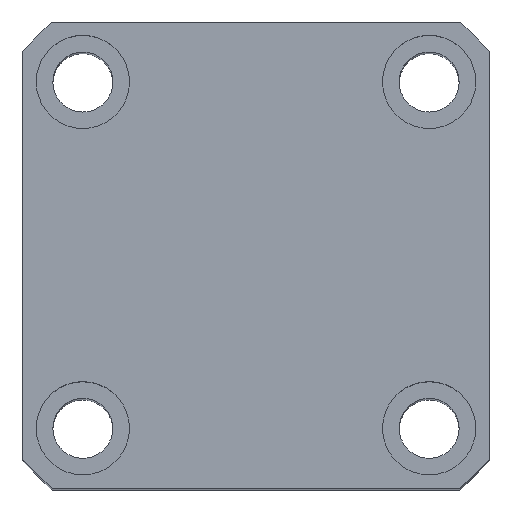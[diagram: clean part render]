
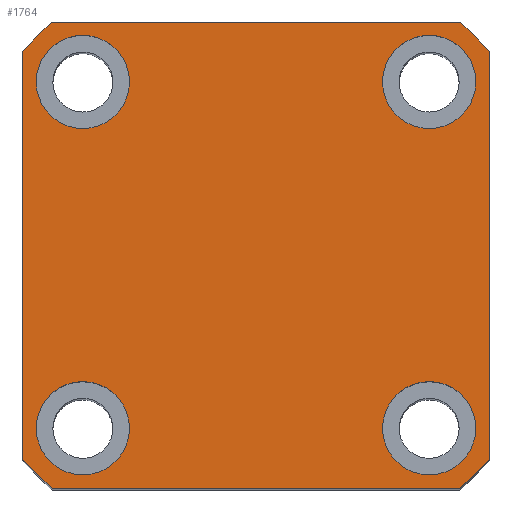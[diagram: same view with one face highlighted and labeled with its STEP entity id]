
A CAD part, top view. The second image highlights one B-rep face of the part: STEP entity #1764.
In plain terms, the highlighted planar face has unit normal (0, 0, 1).
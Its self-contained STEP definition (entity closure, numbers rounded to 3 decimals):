
#23 = VECTOR ( 'NONE', #11136, 1000. ) ;
#90 = AXIS2_PLACEMENT_3D ( 'NONE', #3232, #10620, #4288 ) ;
#93 = ORIENTED_EDGE ( 'NONE', *, *, #2967, .T. ) ;
#144 = VECTOR ( 'NONE', #6725, 1000. ) ;
#162 = CIRCLE ( 'NONE', #90, 7. ) ;
#202 = EDGE_CURVE ( 'NONE', #11135, #9691, #492, .T. ) ;
#358 = AXIS2_PLACEMENT_3D ( 'NONE', #5041, #12439, #6113 ) ;
#420 = AXIS2_PLACEMENT_3D ( 'NONE', #13304, #6970, #647 ) ;
#492 = LINE ( 'NONE', #10956, #144 ) ;
#647 = DIRECTION ( 'NONE',  ( 1., 0., 0. ) ) ;
#826 = CARTESIAN_POINT ( 'NONE',  ( -30.615, -35., 155. ) ) ;
#960 = CIRCLE ( 'NONE', #10920, 46.5 ) ;
#1031 = DIRECTION ( 'NONE',  ( -1., 0., 0. ) ) ;
#1177 = ORIENTED_EDGE ( 'NONE', *, *, #4173, .F. ) ;
#1338 = DIRECTION ( 'NONE',  ( 0., 0., 1. ) ) ;
#1425 = VERTEX_POINT ( 'NONE', #4250 ) ;
#1437 = CARTESIAN_POINT ( 'NONE',  ( 35., -30.615, 155. ) ) ;
#1573 = DIRECTION ( 'NONE',  ( 0., 0., 1. ) ) ;
#1705 = EDGE_CURVE ( 'NONE', #10757, #1976, #2462, .T. ) ;
#1710 = ORIENTED_EDGE ( 'NONE', *, *, #5584, .T. ) ;
#1764 = ADVANCED_FACE ( 'NONE', ( #7776, #2125, #13729, #13055, #10253 ), #4741, .T. ) ;
#1849 = CIRCLE ( 'NONE', #13592, 7. ) ;
#1972 = CARTESIAN_POINT ( 'NONE',  ( 30.615, -35., 155. ) ) ;
#1976 = VERTEX_POINT ( 'NONE', #5960 ) ;
#2019 = EDGE_CURVE ( 'NONE', #7155, #12789, #7940, .T. ) ;
#2040 = EDGE_CURVE ( 'NONE', #8643, #13402, #10390, .T. ) ;
#2054 = CARTESIAN_POINT ( 'NONE',  ( -33., -26., 155. ) ) ;
#2125 = FACE_BOUND ( 'NONE', #2519, .T. ) ;
#2462 = CIRCLE ( 'NONE', #3018, 7. ) ;
#2519 = EDGE_LOOP ( 'NONE', ( #6907, #12194 ) ) ;
#2540 = VECTOR ( 'NONE', #4680, 1000. ) ;
#2595 = ORIENTED_EDGE ( 'NONE', *, *, #7734, .F. ) ;
#2717 = DIRECTION ( 'NONE',  ( 0., 0., 1. ) ) ;
#2763 = VERTEX_POINT ( 'NONE', #3413 ) ;
#2884 = ORIENTED_EDGE ( 'NONE', *, *, #6910, .T. ) ;
#2967 = EDGE_CURVE ( 'NONE', #9320, #8643, #6423, .T. ) ;
#2979 = ORIENTED_EDGE ( 'NONE', *, *, #13223, .T. ) ;
#3018 = AXIS2_PLACEMENT_3D ( 'NONE', #11024, #4693, #12093 ) ;
#3137 = EDGE_CURVE ( 'NONE', #4543, #12180, #1849, .T. ) ;
#3232 = CARTESIAN_POINT ( 'NONE',  ( -26., -26., 155. ) ) ;
#3279 = VECTOR ( 'NONE', #1031, 1000. ) ;
#3336 = CARTESIAN_POINT ( 'NONE',  ( 33., 26., 155. ) ) ;
#3413 = CARTESIAN_POINT ( 'NONE',  ( 30.615, 35., 155. ) ) ;
#3484 = ORIENTED_EDGE ( 'NONE', *, *, #4618, .F. ) ;
#3749 = CARTESIAN_POINT ( 'NONE',  ( -35., 35., 155. ) ) ;
#3815 = ORIENTED_EDGE ( 'NONE', *, *, #202, .T. ) ;
#3949 = CARTESIAN_POINT ( 'NONE',  ( -35., -30.615, 155. ) ) ;
#4073 = EDGE_CURVE ( 'NONE', #12767, #11135, #5977, .T. ) ;
#4173 = EDGE_CURVE ( 'NONE', #12180, #4543, #12418, .T. ) ;
#4229 = VERTEX_POINT ( 'NONE', #7253 ) ;
#4250 = CARTESIAN_POINT ( 'NONE',  ( -19., 26., 155. ) ) ;
#4288 = DIRECTION ( 'NONE',  ( 1., 0., 0. ) ) ;
#4514 = DIRECTION ( 'NONE',  ( 0., 0., 1. ) ) ;
#4543 = VERTEX_POINT ( 'NONE', #4874 ) ;
#4551 = CARTESIAN_POINT ( 'NONE',  ( 0., 0., 155. ) ) ;
#4553 = EDGE_LOOP ( 'NONE', ( #7335, #3484 ) ) ;
#4618 = EDGE_CURVE ( 'NONE', #12789, #7155, #162, .T. ) ;
#4680 = DIRECTION ( 'NONE',  ( 1., 0., 0. ) ) ;
#4693 = DIRECTION ( 'NONE',  ( 0., 0., 1. ) ) ;
#4741 = PLANE ( 'NONE',  #8693 ) ;
#4839 = CARTESIAN_POINT ( 'NONE',  ( -26., 26., 155. ) ) ;
#4874 = CARTESIAN_POINT ( 'NONE',  ( 19., 26., 155. ) ) ;
#4878 = CIRCLE ( 'NONE', #13135, 7. ) ;
#4951 = DIRECTION ( 'NONE',  ( 0., 0., 1. ) ) ;
#5041 = CARTESIAN_POINT ( 'NONE',  ( 26., 26., 155. ) ) ;
#5337 = LINE ( 'NONE', #11011, #2540 ) ;
#5404 = CARTESIAN_POINT ( 'NONE',  ( -33., 26., 155. ) ) ;
#5584 = EDGE_CURVE ( 'NONE', #2763, #4229, #6124, .T. ) ;
#5628 = DIRECTION ( 'NONE',  ( 1., 0., 0. ) ) ;
#5812 = DIRECTION ( 'NONE',  ( 0., 0., 1. ) ) ;
#5912 = DIRECTION ( 'NONE',  ( 1., 0., 0. ) ) ;
#5960 = CARTESIAN_POINT ( 'NONE',  ( 33., -26., 155. ) ) ;
#5977 = CIRCLE ( 'NONE', #9823, 46.5 ) ;
#6113 = DIRECTION ( 'NONE',  ( 1., 0., 0. ) ) ;
#6124 = LINE ( 'NONE', #6435, #3279 ) ;
#6302 = DIRECTION ( 'NONE',  ( 0., 0., 1. ) ) ;
#6423 = LINE ( 'NONE', #3749, #23 ) ;
#6435 = CARTESIAN_POINT ( 'NONE',  ( -35., 35., 155. ) ) ;
#6680 = ORIENTED_EDGE ( 'NONE', *, *, #10415, .F. ) ;
#6725 = DIRECTION ( 'NONE',  ( 0., 1., 0. ) ) ;
#6907 = ORIENTED_EDGE ( 'NONE', *, *, #8465, .F. ) ;
#6910 = EDGE_CURVE ( 'NONE', #4229, #9320, #960, .T. ) ;
#6970 = DIRECTION ( 'NONE',  ( 0., 0., 1. ) ) ;
#7155 = VERTEX_POINT ( 'NONE', #7419 ) ;
#7253 = CARTESIAN_POINT ( 'NONE',  ( -30.615, 35., 155. ) ) ;
#7335 = ORIENTED_EDGE ( 'NONE', *, *, #2019, .F. ) ;
#7419 = CARTESIAN_POINT ( 'NONE',  ( -19., -26., 155. ) ) ;
#7549 = CIRCLE ( 'NONE', #11117, 7. ) ;
#7680 = CARTESIAN_POINT ( 'NONE',  ( -26., -26., 155. ) ) ;
#7734 = EDGE_CURVE ( 'NONE', #1425, #8895, #7549, .T. ) ;
#7776 = FACE_BOUND ( 'NONE', #4553, .T. ) ;
#7851 = ORIENTED_EDGE ( 'NONE', *, *, #3137, .F. ) ;
#7920 = CARTESIAN_POINT ( 'NONE',  ( 0., 0., 155. ) ) ;
#7940 = CIRCLE ( 'NONE', #9173, 7. ) ;
#8465 = EDGE_CURVE ( 'NONE', #1976, #10757, #11351, .T. ) ;
#8643 = VERTEX_POINT ( 'NONE', #3949 ) ;
#8693 = AXIS2_PLACEMENT_3D ( 'NONE', #12141, #5812, #13210 ) ;
#8749 = DIRECTION ( 'NONE',  ( 1., 0., 0. ) ) ;
#8895 = VERTEX_POINT ( 'NONE', #5404 ) ;
#8989 = DIRECTION ( 'NONE',  ( 1., 0., 0. ) ) ;
#9074 = CARTESIAN_POINT ( 'NONE',  ( 0., 0., 155. ) ) ;
#9077 = ORIENTED_EDGE ( 'NONE', *, *, #4073, .T. ) ;
#9173 = AXIS2_PLACEMENT_3D ( 'NONE', #7680, #1338, #8749 ) ;
#9209 = CIRCLE ( 'NONE', #11788, 46.5 ) ;
#9320 = VERTEX_POINT ( 'NONE', #12639 ) ;
#9482 = ORIENTED_EDGE ( 'NONE', *, *, #2040, .T. ) ;
#9613 = CARTESIAN_POINT ( 'NONE',  ( 35., 30.615, 155. ) ) ;
#9691 = VERTEX_POINT ( 'NONE', #9613 ) ;
#9823 = AXIS2_PLACEMENT_3D ( 'NONE', #7920, #1573, #8989 ) ;
#9836 = AXIS2_PLACEMENT_3D ( 'NONE', #10843, #4514, #11920 ) ;
#10113 = DIRECTION ( 'NONE',  ( 1., 0., 0. ) ) ;
#10253 = FACE_OUTER_BOUND ( 'NONE', #13476, .T. ) ;
#10390 = CIRCLE ( 'NONE', #9836, 46.5 ) ;
#10415 = EDGE_CURVE ( 'NONE', #8895, #1425, #4878, .T. ) ;
#10591 = CARTESIAN_POINT ( 'NONE',  ( 19., -26., 155. ) ) ;
#10620 = DIRECTION ( 'NONE',  ( 0., 0., 1. ) ) ;
#10757 = VERTEX_POINT ( 'NONE', #10591 ) ;
#10843 = CARTESIAN_POINT ( 'NONE',  ( 0., 0., 155. ) ) ;
#10887 = ORIENTED_EDGE ( 'NONE', *, *, #11703, .T. ) ;
#10920 = AXIS2_PLACEMENT_3D ( 'NONE', #9074, #2717, #10113 ) ;
#10956 = CARTESIAN_POINT ( 'NONE',  ( 35., 35., 155. ) ) ;
#11011 = CARTESIAN_POINT ( 'NONE',  ( -35., -35., 155. ) ) ;
#11024 = CARTESIAN_POINT ( 'NONE',  ( 26., -26., 155. ) ) ;
#11117 = AXIS2_PLACEMENT_3D ( 'NONE', #12629, #6302, #13700 ) ;
#11135 = VERTEX_POINT ( 'NONE', #1437 ) ;
#11136 = DIRECTION ( 'NONE',  ( 0., -1., 0. ) ) ;
#11279 = CARTESIAN_POINT ( 'NONE',  ( 26., 26., 155. ) ) ;
#11351 = CIRCLE ( 'NONE', #420, 7. ) ;
#11571 = EDGE_LOOP ( 'NONE', ( #2595, #6680 ) ) ;
#11703 = EDGE_CURVE ( 'NONE', #9691, #2763, #9209, .T. ) ;
#11788 = AXIS2_PLACEMENT_3D ( 'NONE', #4551, #11959, #5628 ) ;
#11920 = DIRECTION ( 'NONE',  ( 1., 0., 0. ) ) ;
#11959 = DIRECTION ( 'NONE',  ( 0., 0., 1. ) ) ;
#12093 = DIRECTION ( 'NONE',  ( 1., 0., 0. ) ) ;
#12141 = CARTESIAN_POINT ( 'NONE',  ( 0., 0., 155. ) ) ;
#12180 = VERTEX_POINT ( 'NONE', #3336 ) ;
#12194 = ORIENTED_EDGE ( 'NONE', *, *, #1705, .F. ) ;
#12238 = DIRECTION ( 'NONE',  ( 0., 0., 1. ) ) ;
#12344 = DIRECTION ( 'NONE',  ( 1., 0., 0. ) ) ;
#12418 = CIRCLE ( 'NONE', #358, 7. ) ;
#12439 = DIRECTION ( 'NONE',  ( 0., 0., 1. ) ) ;
#12629 = CARTESIAN_POINT ( 'NONE',  ( -26., 26., 155. ) ) ;
#12639 = CARTESIAN_POINT ( 'NONE',  ( -35., 30.615, 155. ) ) ;
#12767 = VERTEX_POINT ( 'NONE', #1972 ) ;
#12789 = VERTEX_POINT ( 'NONE', #2054 ) ;
#13055 = FACE_BOUND ( 'NONE', #11571, .T. ) ;
#13135 = AXIS2_PLACEMENT_3D ( 'NONE', #4839, #12238, #5912 ) ;
#13210 = DIRECTION ( 'NONE',  ( 1., 0., 0. ) ) ;
#13223 = EDGE_CURVE ( 'NONE', #13402, #12767, #5337, .T. ) ;
#13304 = CARTESIAN_POINT ( 'NONE',  ( 26., -26., 155. ) ) ;
#13402 = VERTEX_POINT ( 'NONE', #826 ) ;
#13476 = EDGE_LOOP ( 'NONE', ( #3815, #10887, #1710, #2884, #93, #9482, #2979, #9077 ) ) ;
#13507 = EDGE_LOOP ( 'NONE', ( #1177, #7851 ) ) ;
#13592 = AXIS2_PLACEMENT_3D ( 'NONE', #11279, #4951, #12344 ) ;
#13700 = DIRECTION ( 'NONE',  ( 1., 0., 0. ) ) ;
#13729 = FACE_BOUND ( 'NONE', #13507, .T. ) ;
